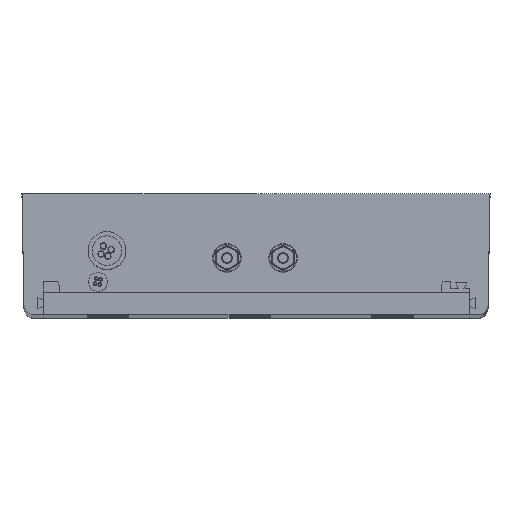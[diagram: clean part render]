
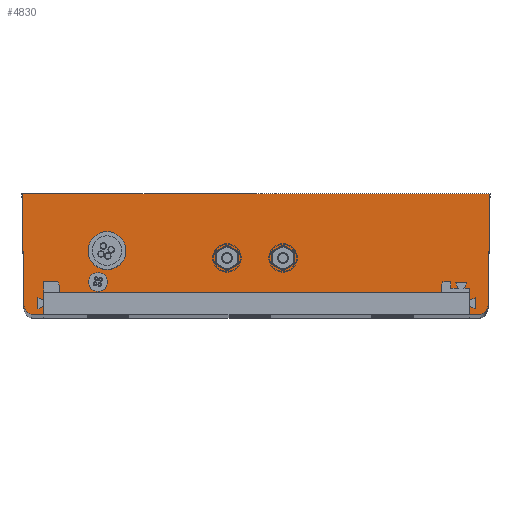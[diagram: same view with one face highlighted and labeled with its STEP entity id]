
A CAD part, top view. The second image highlights one B-rep face of the part: STEP entity #4830.
In plain terms, the highlighted planar face has unit normal (0, 0, 1).
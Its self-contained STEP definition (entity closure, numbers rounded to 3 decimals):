
#84 = CARTESIAN_POINT ( 'NONE',  ( 93.475, -14.637, 0. ) ) ;
#235 = DIRECTION ( 'NONE',  ( -1., 0., 0. ) ) ;
#308 = EDGE_CURVE ( 'NONE', #32688, #10583, #18825, .T. ) ;
#855 = FACE_OUTER_BOUND ( 'NONE', #18546, .T. ) ;
#1034 = ORIENTED_EDGE ( 'NONE', *, *, #13305, .F. ) ;
#1781 = ORIENTED_EDGE ( 'NONE', *, *, #26097, .T. ) ;
#1833 = DIRECTION ( 'NONE',  ( 0., 0., 1. ) ) ;
#1873 = VERTEX_POINT ( 'NONE', #32893 ) ;
#1921 = PLANE ( 'NONE',  #3985 ) ;
#2225 = ORIENTED_EDGE ( 'NONE', *, *, #33707, .T. ) ;
#2240 = CARTESIAN_POINT ( 'NONE',  ( 46.56, 0.563, 0. ) ) ;
#3985 = AXIS2_PLACEMENT_3D ( 'NONE', #31963, #15503, #9730 ) ;
#4308 = VERTEX_POINT ( 'NONE', #10089 ) ;
#4342 = DIRECTION ( 'NONE',  ( 0., 0., 1. ) ) ;
#4393 = EDGE_CURVE ( 'NONE', #4308, #32178, #25907, .T. ) ;
#4410 = VERTEX_POINT ( 'NONE', #84 ) ;
#4521 = DIRECTION ( 'NONE',  ( 0., 0., 1. ) ) ;
#4744 = ORIENTED_EDGE ( 'NONE', *, *, #27801, .F. ) ;
#4830 = ADVANCED_FACE ( 'NONE', ( #855, #34544, #33679 ), #1921, .T. ) ;
#5132 = DIRECTION ( 'NONE',  ( -1., 0., 0. ) ) ;
#5376 = VERTEX_POINT ( 'NONE', #2240 ) ;
#5542 = EDGE_CURVE ( 'NONE', #21655, #26853, #15610, .T. ) ;
#5573 = CIRCLE ( 'NONE', #9743, 2.95 ) ;
#5917 = CARTESIAN_POINT ( 'NONE',  ( 95.431, -11.837, 0. ) ) ;
#6072 = CIRCLE ( 'NONE', #16664, 2.95 ) ;
#6160 = DIRECTION ( 'NONE',  ( 1., 0., 0. ) ) ;
#6268 = VERTEX_POINT ( 'NONE', #21340 ) ;
#6716 = LINE ( 'NONE', #34599, #14851 ) ;
#6813 = AXIS2_PLACEMENT_3D ( 'NONE', #23384, #4342, #9984 ) ;
#7083 = ORIENTED_EDGE ( 'NONE', *, *, #308, .T. ) ;
#7090 = DIRECTION ( 'NONE',  ( 0.017, 1., 0. ) ) ;
#7387 = EDGE_LOOP ( 'NONE', ( #22183, #1034 ) ) ;
#7487 = DIRECTION ( 'NONE',  ( 0., 1., 0. ) ) ;
#7922 = CARTESIAN_POINT ( 'NONE',  ( 43.61, 0.563, 0. ) ) ;
#7937 = CARTESIAN_POINT ( 'NONE',  ( -25.325, 17.763, 0. ) ) ;
#7978 = CARTESIAN_POINT ( 'NONE',  ( -20.425, -8.787, 0. ) ) ;
#7988 = CIRCLE ( 'NONE', #25304, 2.95 ) ;
#8309 = ORIENTED_EDGE ( 'NONE', *, *, #5542, .T. ) ;
#8922 = CARTESIAN_POINT ( 'NONE',  ( 40.66, 0.563, 0. ) ) ;
#9049 = DIRECTION ( 'NONE',  ( 0., 0., 1. ) ) ;
#9231 = CARTESIAN_POINT ( 'NONE',  ( -25.735, -8.787, 0. ) ) ;
#9485 = CARTESIAN_POINT ( 'NONE',  ( 96.508, -14.637, 0. ) ) ;
#9730 = DIRECTION ( 'NONE',  ( 1., 0., 0. ) ) ;
#9743 = AXIS2_PLACEMENT_3D ( 'NONE', #7922, #10666, #27005 ) ;
#9984 = DIRECTION ( 'NONE',  ( 1., 0., 0. ) ) ;
#10045 = DIRECTION ( 'NONE',  ( 1., 0., 0. ) ) ;
#10070 = VECTOR ( 'NONE', #33060, 1000. ) ;
#10089 = CARTESIAN_POINT ( 'NONE',  ( 93.475, -8.787, 0. ) ) ;
#10583 = VERTEX_POINT ( 'NONE', #18793 ) ;
#10651 = CIRCLE ( 'NONE', #20725, 3. ) ;
#10666 = DIRECTION ( 'NONE',  ( 0., 0., 1. ) ) ;
#12320 = EDGE_CURVE ( 'NONE', #5376, #16015, #6072, .T. ) ;
#12763 = AXIS2_PLACEMENT_3D ( 'NONE', #23876, #1833, #27048 ) ;
#12955 = ORIENTED_EDGE ( 'NONE', *, *, #23895, .F. ) ;
#13305 = EDGE_CURVE ( 'NONE', #16015, #5376, #5573, .T. ) ;
#13491 = VERTEX_POINT ( 'NONE', #33118 ) ;
#14851 = VECTOR ( 'NONE', #7090, 1000. ) ;
#14907 = LINE ( 'NONE', #18214, #30087 ) ;
#15387 = CARTESIAN_POINT ( 'NONE',  ( 43.61, 0.563, 0. ) ) ;
#15503 = DIRECTION ( 'NONE',  ( 0., 0., 1. ) ) ;
#15528 = EDGE_CURVE ( 'NONE', #13491, #10583, #14907, .T. ) ;
#15610 = LINE ( 'NONE', #7937, #25115 ) ;
#15614 = DIRECTION ( 'NONE',  ( 0., 0., 1. ) ) ;
#16015 = VERTEX_POINT ( 'NONE', #8922 ) ;
#16125 = CARTESIAN_POINT ( 'NONE',  ( -25.681, -11.89, 0. ) ) ;
#16352 = CARTESIAN_POINT ( 'NONE',  ( -20.425, -8.787, 0. ) ) ;
#16580 = ORIENTED_EDGE ( 'NONE', *, *, #4393, .F. ) ;
#16664 = AXIS2_PLACEMENT_3D ( 'NONE', #15387, #15614, #18403 ) ;
#18214 = CARTESIAN_POINT ( 'NONE',  ( 0., -14.637, 0. ) ) ;
#18403 = DIRECTION ( 'NONE',  ( 1., 0., 0. ) ) ;
#18546 = EDGE_LOOP ( 'NONE', ( #4744, #1781, #2225, #8309, #24699, #7083, #33204, #32356, #16580, #12955 ) ) ;
#18793 = CARTESIAN_POINT ( 'NONE',  ( -23.759, -14.637, 0. ) ) ;
#18825 = CIRCLE ( 'NONE', #6813, 3. ) ;
#19185 = LINE ( 'NONE', #9231, #30038 ) ;
#19370 = ORIENTED_EDGE ( 'NONE', *, *, #22122, .F. ) ;
#20446 = ORIENTED_EDGE ( 'NONE', *, *, #33127, .F. ) ;
#20725 = AXIS2_PLACEMENT_3D ( 'NONE', #5917, #9049, #6160 ) ;
#21340 = CARTESIAN_POINT ( 'NONE',  ( 98.431, -11.89, 0. ) ) ;
#21655 = VERTEX_POINT ( 'NONE', #22735 ) ;
#21734 = LINE ( 'NONE', #24841, #30000 ) ;
#21799 = CARTESIAN_POINT ( 'NONE',  ( -20.425, -15.137, 0. ) ) ;
#22122 = EDGE_CURVE ( 'NONE', #1873, #26123, #25750, .T. ) ;
#22183 = ORIENTED_EDGE ( 'NONE', *, *, #12320, .F. ) ;
#22735 = CARTESIAN_POINT ( 'NONE',  ( 98.948, 17.763, 0. ) ) ;
#23384 = CARTESIAN_POINT ( 'NONE',  ( -22.682, -11.837, 0. ) ) ;
#23876 = CARTESIAN_POINT ( 'NONE',  ( 28.61, 0.563, 0. ) ) ;
#23895 = EDGE_CURVE ( 'NONE', #4410, #4308, #31701, .T. ) ;
#24699 = ORIENTED_EDGE ( 'NONE', *, *, #33079, .F. ) ;
#24841 = CARTESIAN_POINT ( 'NONE',  ( 0., -14.637, 0. ) ) ;
#25086 = VERTEX_POINT ( 'NONE', #9485 ) ;
#25115 = VECTOR ( 'NONE', #27504, 1000. ) ;
#25304 = AXIS2_PLACEMENT_3D ( 'NONE', #29169, #4521, #10045 ) ;
#25528 = EDGE_LOOP ( 'NONE', ( #20446, #19370 ) ) ;
#25750 = CIRCLE ( 'NONE', #12763, 2.95 ) ;
#25907 = LINE ( 'NONE', #16352, #33710 ) ;
#26078 = VECTOR ( 'NONE', #7487, 1000. ) ;
#26097 = EDGE_CURVE ( 'NONE', #25086, #6268, #10651, .T. ) ;
#26123 = VERTEX_POINT ( 'NONE', #33813 ) ;
#26691 = DIRECTION ( 'NONE',  ( -1., 0., 0. ) ) ;
#26853 = VERTEX_POINT ( 'NONE', #31599 ) ;
#27005 = DIRECTION ( 'NONE',  ( 1., 0., 0. ) ) ;
#27048 = DIRECTION ( 'NONE',  ( 1., 0., 0. ) ) ;
#27504 = DIRECTION ( 'NONE',  ( -1., 0., 0. ) ) ;
#27748 = EDGE_CURVE ( 'NONE', #32178, #13491, #30445, .T. ) ;
#27801 = EDGE_CURVE ( 'NONE', #25086, #4410, #21734, .T. ) ;
#29169 = CARTESIAN_POINT ( 'NONE',  ( 28.61, 0.563, 0. ) ) ;
#30000 = VECTOR ( 'NONE', #235, 1000. ) ;
#30038 = VECTOR ( 'NONE', #31351, 1000. ) ;
#30087 = VECTOR ( 'NONE', #26691, 1000. ) ;
#30445 = LINE ( 'NONE', #21799, #10070 ) ;
#31351 = DIRECTION ( 'NONE',  ( -0.017, 1., 0. ) ) ;
#31599 = CARTESIAN_POINT ( 'NONE',  ( -26.199, 17.763, 0. ) ) ;
#31701 = LINE ( 'NONE', #32477, #26078 ) ;
#31963 = CARTESIAN_POINT ( 'NONE',  ( 0., 0., 0. ) ) ;
#32178 = VERTEX_POINT ( 'NONE', #7978 ) ;
#32356 = ORIENTED_EDGE ( 'NONE', *, *, #27748, .F. ) ;
#32477 = CARTESIAN_POINT ( 'NONE',  ( 93.475, -15.137, 0. ) ) ;
#32688 = VERTEX_POINT ( 'NONE', #16125 ) ;
#32893 = CARTESIAN_POINT ( 'NONE',  ( 25.66, 0.563, 0. ) ) ;
#33060 = DIRECTION ( 'NONE',  ( 0., -1., 0. ) ) ;
#33079 = EDGE_CURVE ( 'NONE', #32688, #26853, #19185, .T. ) ;
#33118 = CARTESIAN_POINT ( 'NONE',  ( -20.425, -14.637, 0. ) ) ;
#33127 = EDGE_CURVE ( 'NONE', #26123, #1873, #7988, .T. ) ;
#33204 = ORIENTED_EDGE ( 'NONE', *, *, #15528, .F. ) ;
#33679 = FACE_BOUND ( 'NONE', #7387, .T. ) ;
#33707 = EDGE_CURVE ( 'NONE', #6268, #21655, #6716, .T. ) ;
#33710 = VECTOR ( 'NONE', #5132, 1000. ) ;
#33813 = CARTESIAN_POINT ( 'NONE',  ( 31.56, 0.563, 0. ) ) ;
#34544 = FACE_BOUND ( 'NONE', #25528, .T. ) ;
#34599 = CARTESIAN_POINT ( 'NONE',  ( 98.608, -1.721, 0. ) ) ;
